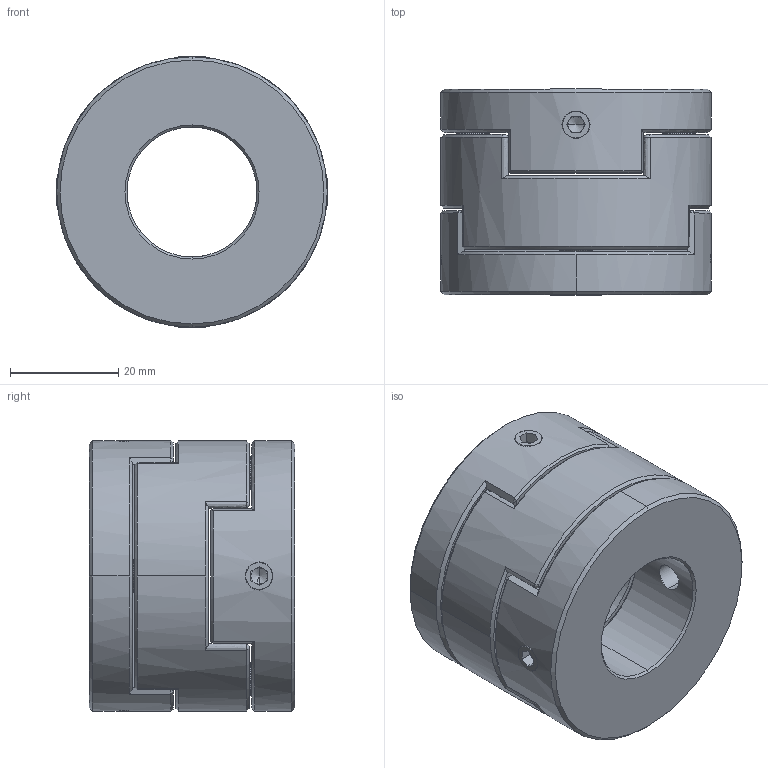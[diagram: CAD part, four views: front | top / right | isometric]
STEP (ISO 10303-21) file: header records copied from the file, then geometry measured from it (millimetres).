
FILE_DESCRIPTION (( 'STEP AP203' ), '1' );
FILE_NAME ('LZ-D-D50L38-24-24.STEP', '2021-10-30T06:06:50', ( '' ), ( '' ), 'SwSTEP 2.0', 'SolidWorks 2018', '' );
FILE_SCHEMA (( 'CONFIG_CONTROL_DESIGN' ));
Length unit declared in the file: millimetre
Products named in the file (1): LZ-D-D50L38-24-24
Bounding box: 50 x 38 x 50 mm (x, y, z)
Volume: 55280.5 mm3; surface area: 18004.4 mm2
Topology: 1 solids, 1 shells, 224 faces, 558 edges, 334 vertices
Faces by surface type: plane 90, bspline 54, cone 54, cylinder 26
Entity records: 7642 total; most frequent: CARTESIAN_POINT 2806, ORIENTED_EDGE 1100, DIRECTION 806, EDGE_CURVE 550, VERTEX_POINT 334, AXIS2_PLACEMENT_3D 291, EDGE_LOOP 248, ADVANCED_FACE 224
